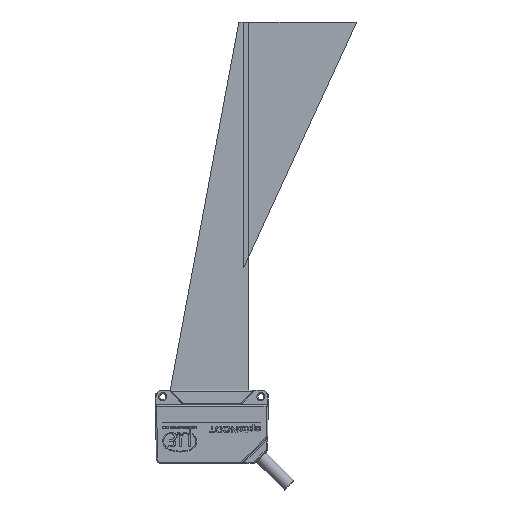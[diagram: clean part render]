
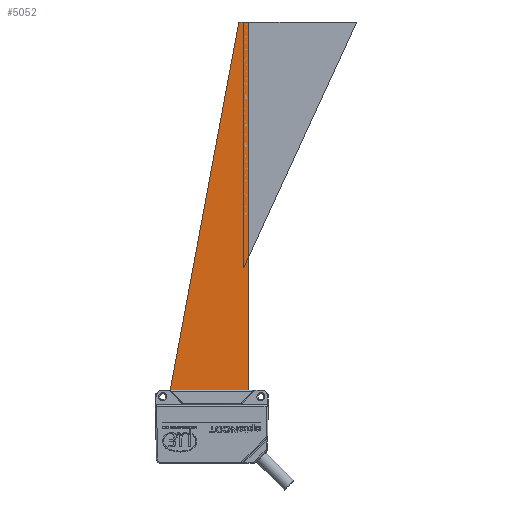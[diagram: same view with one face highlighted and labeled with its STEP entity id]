
A CAD part, front view. The second image highlights one B-rep face of the part: STEP entity #5052.
In plain terms, the highlighted planar face has unit normal (0, -1, 0).
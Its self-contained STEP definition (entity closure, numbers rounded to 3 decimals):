
#459 = EDGE_CURVE ( 'NONE', #75755, #75348, #74099, .T. ) ;
#5052 = ADVANCED_FACE ( 'NONE', ( #50323 ), #84640, .T. ) ;
#7331 = CARTESIAN_POINT ( 'NONE',  ( 14.991, -1.5, 5. ) ) ;
#10621 = VECTOR ( 'NONE', #82766, 1000. ) ;
#21892 = DIRECTION ( 'NONE',  ( 0., 0., -1. ) ) ;
#24134 = EDGE_LOOP ( 'NONE', ( #77273, #59706, #41609, #50334 ) ) ;
#24904 = CARTESIAN_POINT ( 'NONE',  ( 14.991, -1.5, 155. ) ) ;
#25607 = EDGE_CURVE ( 'NONE', #75348, #25694, #41350, .T. ) ;
#25694 = VERTEX_POINT ( 'NONE', #26990 ) ;
#26722 = EDGE_CURVE ( 'NONE', #25694, #40482, #45592, .T. ) ;
#26990 = CARTESIAN_POINT ( 'NONE',  ( -16.991, -1.5, 5. ) ) ;
#27683 = VECTOR ( 'NONE', #66685, 1000. ) ;
#34330 = DIRECTION ( 'NONE',  ( 0.183, 0., 0.983 ) ) ;
#39885 = VECTOR ( 'NONE', #87946, 1000. ) ;
#40482 = VERTEX_POINT ( 'NONE', #40608 ) ;
#40608 = CARTESIAN_POINT ( 'NONE',  ( 11., -1.5, 155. ) ) ;
#41350 = LINE ( 'NONE', #75627, #10621 ) ;
#41609 = ORIENTED_EDGE ( 'NONE', *, *, #459, .F. ) ;
#43604 = LINE ( 'NONE', #52891, #27683 ) ;
#45592 = LINE ( 'NONE', #53142, #87483 ) ;
#50323 = FACE_OUTER_BOUND ( 'NONE', #24134, .T. ) ;
#50334 = ORIENTED_EDGE ( 'NONE', *, *, #87067, .F. ) ;
#50764 = CARTESIAN_POINT ( 'NONE',  ( 0., -1.5, 0. ) ) ;
#52891 = CARTESIAN_POINT ( 'NONE',  ( 14.991, -1.5, 155. ) ) ;
#53142 = CARTESIAN_POINT ( 'NONE',  ( 11., -1.5, 155. ) ) ;
#59706 = ORIENTED_EDGE ( 'NONE', *, *, #25607, .F. ) ;
#66685 = DIRECTION ( 'NONE',  ( 1., 0., 0. ) ) ;
#74099 = LINE ( 'NONE', #7331, #39885 ) ;
#75348 = VERTEX_POINT ( 'NONE', #78457 ) ;
#75627 = CARTESIAN_POINT ( 'NONE',  ( -16.991, -1.5, 5. ) ) ;
#75755 = VERTEX_POINT ( 'NONE', #24904 ) ;
#77273 = ORIENTED_EDGE ( 'NONE', *, *, #26722, .F. ) ;
#77931 = DIRECTION ( 'NONE',  ( 0., -1., 0. ) ) ;
#78457 = CARTESIAN_POINT ( 'NONE',  ( 14.991, -1.5, 5. ) ) ;
#82536 = AXIS2_PLACEMENT_3D ( 'NONE', #50764, #77931, #21892 ) ;
#82766 = DIRECTION ( 'NONE',  ( -1., 0., 0. ) ) ;
#84640 = PLANE ( 'NONE',  #82536 ) ;
#87067 = EDGE_CURVE ( 'NONE', #40482, #75755, #43604, .T. ) ;
#87483 = VECTOR ( 'NONE', #34330, 1000. ) ;
#87946 = DIRECTION ( 'NONE',  ( 0., 0., -1. ) ) ;
